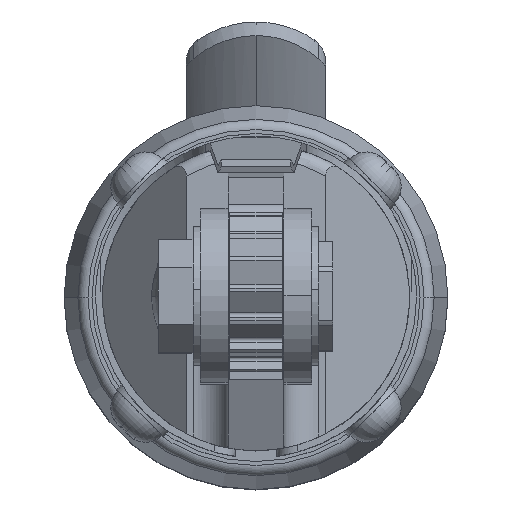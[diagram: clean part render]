
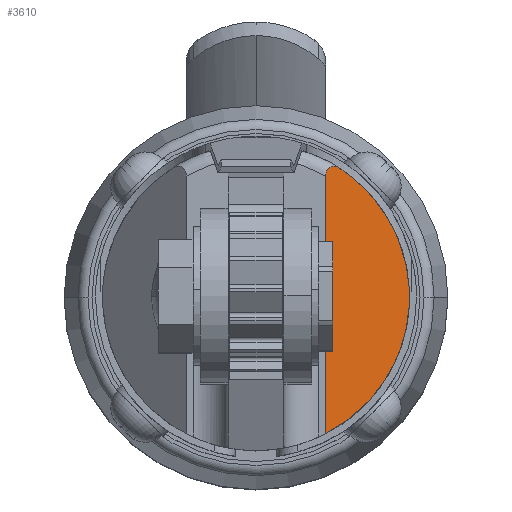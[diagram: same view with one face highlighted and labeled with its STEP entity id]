
A CAD part, top view. The second image highlights one B-rep face of the part: STEP entity #3610.
In plain terms, the highlighted planar face has unit normal (0.707, 0, 0.707).
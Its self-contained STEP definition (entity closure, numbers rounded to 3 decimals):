
#2908 = EDGE_CURVE ( 'NONE', #2909, #2966, #10166, .T. ) ;
#2909 = VERTEX_POINT ( 'NONE', #10168 ) ;
#2966 = VERTEX_POINT ( 'NONE', #10321 ) ;
#3212 = VERTEX_POINT ( 'NONE', #10920 ) ;
#3262 = EDGE_CURVE ( 'NONE', #3263, #3212, #11006, .T. ) ;
#3263 = VERTEX_POINT ( 'NONE', #11005 ) ;
#3468 = EDGE_CURVE ( 'NONE', #3263, #3469, #11365, .T. ) ;
#3469 = VERTEX_POINT ( 'NONE', #11427 ) ;
#3531 = EDGE_LOOP ( 'NONE', ( #3532, #3533, #3535, #3536, #3594, #3596 ) ) ;
#3532 = ORIENTED_EDGE ( 'NONE', *, *, #3262, .T. ) ;
#3533 = ORIENTED_EDGE ( 'NONE', *, *, #3534, .T. ) ;
#3534 = EDGE_CURVE ( 'NONE', #3212, #2909, #11462, .T. ) ;
#3535 = ORIENTED_EDGE ( 'NONE', *, *, #2908, .T. ) ;
#3536 = ORIENTED_EDGE ( 'NONE', *, *, #3537, .T. ) ;
#3537 = EDGE_CURVE ( 'NONE', #2966, #3538, #11505, .T. ) ;
#3538 = VERTEX_POINT ( 'NONE', #11504 ) ;
#3594 = ORIENTED_EDGE ( 'NONE', *, *, #3595, .T. ) ;
#3595 = EDGE_CURVE ( 'NONE', #3538, #3469, #11602, .T. ) ;
#3596 = ORIENTED_EDGE ( 'NONE', *, *, #3468, .F. ) ;
#3610 = ADVANCED_FACE ( 'NONE', ( #11577 ), #11618, .F. ) ;
#10162 = CARTESIAN_POINT ( 'NONE',  ( 21.967, 1.203, -107.967 ) ) ;
#10163 = CARTESIAN_POINT ( 'NONE',  ( 21.989, 0.802, -107.989 ) ) ;
#10164 = CARTESIAN_POINT ( 'NONE',  ( 22., 0.401, -108. ) ) ;
#10165 = CARTESIAN_POINT ( 'NONE',  ( 22., 0., -108. ) ) ;
#10166 =( BOUNDED_CURVE ( )  B_SPLINE_CURVE ( 3, ( #10165, #10164, #10163, #10162 ),
 .UNSPECIFIED., .F., .T. ) 
 B_SPLINE_CURVE_WITH_KNOTS ( ( 4, 4 ),
 ( 3.142, 3.196 ),
 .UNSPECIFIED. ) 
 CURVE ( )  GEOMETRIC_REPRESENTATION_ITEM ( )  RATIONAL_B_SPLINE_CURVE ( ( 1., 1., 1., 1. ) ) 
 REPRESENTATION_ITEM ( '' )  );
#10168 = CARTESIAN_POINT ( 'NONE',  ( 22., 0., -108. ) ) ;
#10321 = CARTESIAN_POINT ( 'NONE',  ( 21.967, 1.203, -107.967 ) ) ;
#10920 = CARTESIAN_POINT ( 'NONE',  ( 21.97, -1.155, -107.97 ) ) ;
#11005 = CARTESIAN_POINT ( 'NONE',  ( 10., -19.596, -96. ) ) ;
#11006 =( BOUNDED_CURVE ( )  B_SPLINE_CURVE ( 3, ( #11045, #11044, #11043, #11042 ),
 .UNSPECIFIED., .F., .T. ) 
 B_SPLINE_CURVE_WITH_KNOTS ( ( 4, 4 ),
 ( 2.043, 3.089 ),
 .UNSPECIFIED. ) 
 CURVE ( )  GEOMETRIC_REPRESENTATION_ITEM ( )  RATIONAL_B_SPLINE_CURVE ( ( 1., 0.911, 0.911, 1. ) ) 
 REPRESENTATION_ITEM ( '' )  );
#11042 = CARTESIAN_POINT ( 'NONE',  ( 21.97, -1.155, -107.97 ) ) ;
#11043 = CARTESIAN_POINT ( 'NONE',  ( 21.547, -9.19, -107.547 ) ) ;
#11044 = CARTESIAN_POINT ( 'NONE',  ( 17.167, -15.939, -103.167 ) ) ;
#11045 = CARTESIAN_POINT ( 'NONE',  ( 10., -19.596, -96. ) ) ;
#11364 = CARTESIAN_POINT ( 'NONE',  ( 10., -22., -96. ) ) ;
#11365 = LINE ( 'NONE', #11364, #11429 ) ;
#11427 = CARTESIAN_POINT ( 'NONE',  ( 10., 17.321, -96. ) ) ;
#11428 = DIRECTION ( 'NONE',  ( 0., 1., 0. ) ) ;
#11429 = VECTOR ( 'NONE', #11428, 1000. ) ;
#11461 = CARTESIAN_POINT ( 'NONE',  ( 21.97, -1.155, -107.97 ) ) ;
#11462 =( BOUNDED_CURVE ( )  B_SPLINE_CURVE ( 3, ( #11461, #11508, #11507, #11506 ),
 .UNSPECIFIED., .F., .T. ) 
 B_SPLINE_CURVE_WITH_KNOTS ( ( 4, 4 ),
 ( 3.089, 3.142 ),
 .UNSPECIFIED. ) 
 CURVE ( )  GEOMETRIC_REPRESENTATION_ITEM ( )  RATIONAL_B_SPLINE_CURVE ( ( 1., 1., 1., 1. ) ) 
 REPRESENTATION_ITEM ( '' )  );
#11500 = CARTESIAN_POINT ( 'NONE',  ( 12., 18.439, -98. ) ) ;
#11501 = CARTESIAN_POINT ( 'NONE',  ( 17.995, 14.537, -103.995 ) ) ;
#11502 = CARTESIAN_POINT ( 'NONE',  ( 21.576, 8.345, -107.576 ) ) ;
#11503 = CARTESIAN_POINT ( 'NONE',  ( 21.967, 1.203, -107.967 ) ) ;
#11504 = CARTESIAN_POINT ( 'NONE',  ( 12., 18.439, -98. ) ) ;
#11505 =( BOUNDED_CURVE ( )  B_SPLINE_CURVE ( 3, ( #11503, #11502, #11501, #11500 ),
 .UNSPECIFIED., .F., .F. ) 
 B_SPLINE_CURVE_WITH_KNOTS ( ( 4, 4 ),
 ( 3.196, 4.135 ),
 .UNSPECIFIED. ) 
 CURVE ( )  GEOMETRIC_REPRESENTATION_ITEM ( )  RATIONAL_B_SPLINE_CURVE ( ( 1., 0.928, 0.928, 1. ) ) 
 REPRESENTATION_ITEM ( '' )  );
#11506 = CARTESIAN_POINT ( 'NONE',  ( 22., 0., -108. ) ) ;
#11507 = CARTESIAN_POINT ( 'NONE',  ( 22., -0.385, -108. ) ) ;
#11508 = CARTESIAN_POINT ( 'NONE',  ( 21.99, -0.77, -107.99 ) ) ;
#11577 = FACE_OUTER_BOUND ( 'NONE', #3531, .T. ) ;
#11581 = CARTESIAN_POINT ( 'NONE',  ( 10., 17.321, -96. ) ) ;
#11582 = CARTESIAN_POINT ( 'NONE',  ( 10., 17.476, -96. ) ) ;
#11583 = CARTESIAN_POINT ( 'NONE',  ( 10.014, 17.632, -96.014 ) ) ;
#11584 = CARTESIAN_POINT ( 'NONE',  ( 10.076, 17.927, -96.076 ) ) ;
#11585 = CARTESIAN_POINT ( 'NONE',  ( 10.125, 18.069, -96.125 ) ) ;
#11586 = CARTESIAN_POINT ( 'NONE',  ( 10.256, 18.315, -96.256 ) ) ;
#11587 = CARTESIAN_POINT ( 'NONE',  ( 10.339, 18.42, -96.339 ) ) ;
#11588 = CARTESIAN_POINT ( 'NONE',  ( 10.523, 18.585, -96.523 ) ) ;
#11589 = CARTESIAN_POINT ( 'NONE',  ( 10.626, 18.644, -96.626 ) ) ;
#11590 = CARTESIAN_POINT ( 'NONE',  ( 10.836, 18.723, -96.836 ) ) ;
#11591 = CARTESIAN_POINT ( 'NONE',  ( 10.946, 18.742, -96.946 ) ) ;
#11592 = CARTESIAN_POINT ( 'NONE',  ( 11.163, 18.749, -97.163 ) ) ;
#11593 = CARTESIAN_POINT ( 'NONE',  ( 11.273, 18.737, -97.273 ) ) ;
#11594 = CARTESIAN_POINT ( 'NONE',  ( 11.596, 18.664, -97.596 ) ) ;
#11595 = CARTESIAN_POINT ( 'NONE',  ( 11.801, 18.568, -97.801 ) ) ;
#11600 = CARTESIAN_POINT ( 'NONE',  ( 12., 18.439, -98. ) ) ;
#11602 = B_SPLINE_CURVE_WITH_KNOTS ( 'NONE', 3,
 ( #11600, #11595, #11594, #11593, #11592, #11591, #11590, #11589, #11588, #11587, #11586, #11585, #11584, #11583, #11582, #11581 ),
 .UNSPECIFIED., .F., .F.,
 ( 4, 2, 2, 2, 2, 2, 2, 4 ),
 ( 0., 0.001, 0.001, 0.002, 0.002, 0.003, 0.003, 0.004 ),
 .UNSPECIFIED. ) ;
#11614 = DIRECTION ( 'NONE',  ( -0.707, 0., 0.707 ) ) ;
#11615 = DIRECTION ( 'NONE',  ( -0.707, 0., -0.707 ) ) ;
#11616 = CARTESIAN_POINT ( 'NONE',  ( 10., -22., -96. ) ) ;
#11617 = AXIS2_PLACEMENT_3D ( 'NONE', #11616, #11615, #11614 ) ;
#11618 = PLANE ( 'NONE',  #11617 ) ;
